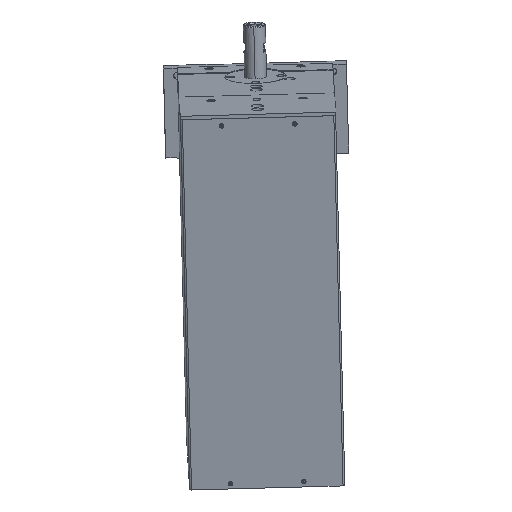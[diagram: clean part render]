
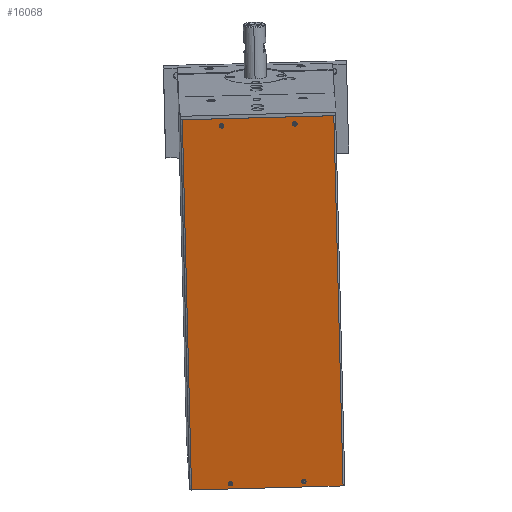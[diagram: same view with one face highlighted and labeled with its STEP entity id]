
A CAD part, top view. The second image highlights one B-rep face of the part: STEP entity #16068.
In plain terms, the highlighted planar face has unit normal (0.015, -0.234, 0.972) as drawn and (-1, 0, 0) by its records, which use the part's own axes.
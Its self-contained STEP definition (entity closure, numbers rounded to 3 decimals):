
#817 = ORIENTED_EDGE ( 'NONE', *, *, #44563, .F. ) ;
#1295 = DIRECTION ( 'NONE',  ( -1., 0., 0. ) ) ;
#2525 = DIRECTION ( 'NONE',  ( -1., 0., 0. ) ) ;
#2689 = DIRECTION ( 'NONE',  ( 0., 0., 1. ) ) ;
#3382 = EDGE_CURVE ( 'NONE', #24401, #45451, #36777, .T. ) ;
#3693 = FACE_BOUND ( 'NONE', #34035, .T. ) ;
#6455 = FACE_OUTER_BOUND ( 'NONE', #13276, .T. ) ;
#8291 = CARTESIAN_POINT ( 'NONE',  ( -118.5, 1., 104. ) ) ;
#9628 = ORIENTED_EDGE ( 'NONE', *, *, #12168, .F. ) ;
#9821 = VERTEX_POINT ( 'NONE', #29755 ) ;
#9965 = EDGE_LOOP ( 'NONE', ( #28876, #35763 ) ) ;
#11250 = CARTESIAN_POINT ( 'NONE',  ( -118.5, 62.4, -102.25 ) ) ;
#11347 = VERTEX_POINT ( 'NONE', #15560 ) ;
#11969 = DIRECTION ( 'NONE',  ( 0., 0., -1. ) ) ;
#12168 = EDGE_CURVE ( 'NONE', #11347, #37677, #26918, .T. ) ;
#12587 = DIRECTION ( 'NONE',  ( 0., 0., -1. ) ) ;
#12684 = CARTESIAN_POINT ( 'NONE',  ( -118.5, 22.4, 98.75 ) ) ;
#13158 = DIRECTION ( 'NONE',  ( 0., 0., 1. ) ) ;
#13276 = EDGE_LOOP ( 'NONE', ( #15199, #36247, #31209, #31475 ) ) ;
#14338 = CARTESIAN_POINT ( 'NONE',  ( -118.5, 83.8, 104. ) ) ;
#14900 = AXIS2_PLACEMENT_3D ( 'NONE', #37543, #1295, #15725 ) ;
#15199 = ORIENTED_EDGE ( 'NONE', *, *, #37236, .T. ) ;
#15237 = VECTOR ( 'NONE', #39163, 1000. ) ;
#15536 = AXIS2_PLACEMENT_3D ( 'NONE', #38702, #24091, #42455 ) ;
#15560 = CARTESIAN_POINT ( 'NONE',  ( -118.5, 22.4, -99.75 ) ) ;
#15710 = CARTESIAN_POINT ( 'NONE',  ( -118.5, 1., 104. ) ) ;
#15725 = DIRECTION ( 'NONE',  ( 0., 0., 1. ) ) ;
#16068 = ADVANCED_FACE ( 'NONE', ( #3693, #42395, #34555, #41863, #6455 ), #33614, .F. ) ;
#16373 = CARTESIAN_POINT ( 'NONE',  ( -118.5, 1., 104. ) ) ;
#16458 = VERTEX_POINT ( 'NONE', #46604 ) ;
#16930 = EDGE_CURVE ( 'NONE', #9821, #45519, #29451, .T. ) ;
#18021 = VERTEX_POINT ( 'NONE', #42311 ) ;
#18606 = VECTOR ( 'NONE', #42155, 1000. ) ;
#18621 = LINE ( 'NONE', #14338, #15237 ) ;
#19428 = VERTEX_POINT ( 'NONE', #25703 ) ;
#19513 = ORIENTED_EDGE ( 'NONE', *, *, #44713, .F. ) ;
#19981 = CARTESIAN_POINT ( 'NONE',  ( -118.5, 22.4, -102.25 ) ) ;
#19998 = AXIS2_PLACEMENT_3D ( 'NONE', #34231, #37848, #41459 ) ;
#20051 = CARTESIAN_POINT ( 'NONE',  ( -118.5, 62.4, -101. ) ) ;
#20160 = VERTEX_POINT ( 'NONE', #45067 ) ;
#20552 = CARTESIAN_POINT ( 'NONE',  ( -118.5, 22.4, 100. ) ) ;
#20836 = CIRCLE ( 'NONE', #14900, 1.25 ) ;
#20996 = DIRECTION ( 'NONE',  ( -1., 0., 0. ) ) ;
#21103 = AXIS2_PLACEMENT_3D ( 'NONE', #15710, #33462, #11969 ) ;
#21516 = CARTESIAN_POINT ( 'NONE',  ( -118.5, 62.4, 98.75 ) ) ;
#22696 = EDGE_CURVE ( 'NONE', #18021, #31479, #46574, .T. ) ;
#23242 = CARTESIAN_POINT ( 'NONE',  ( -118.5, 1., 104. ) ) ;
#23651 = DIRECTION ( 'NONE',  ( 0., 0., 1. ) ) ;
#23728 = EDGE_CURVE ( 'NONE', #37677, #11347, #31316, .T. ) ;
#23950 = CARTESIAN_POINT ( 'NONE',  ( -118.5, 1., -104. ) ) ;
#24091 = DIRECTION ( 'NONE',  ( -1., 0., 0. ) ) ;
#24172 = CIRCLE ( 'NONE', #19998, 1.25 ) ;
#24382 = CIRCLE ( 'NONE', #31405, 1.25 ) ;
#24387 = AXIS2_PLACEMENT_3D ( 'NONE', #37134, #43772, #29928 ) ;
#24401 = VERTEX_POINT ( 'NONE', #21516 ) ;
#25665 = AXIS2_PLACEMENT_3D ( 'NONE', #20051, #45167, #23651 ) ;
#25696 = CARTESIAN_POINT ( 'NONE',  ( -118.5, 62.4, 101.25 ) ) ;
#25703 = CARTESIAN_POINT ( 'NONE',  ( -118.5, 1., -104. ) ) ;
#26028 = LINE ( 'NONE', #23242, #42326 ) ;
#26802 = DIRECTION ( 'NONE',  ( -1., 0., 0. ) ) ;
#26918 = CIRCLE ( 'NONE', #15536, 1.25 ) ;
#27087 = EDGE_CURVE ( 'NONE', #18021, #20160, #18621, .T. ) ;
#28194 = ORIENTED_EDGE ( 'NONE', *, *, #35031, .F. ) ;
#28593 = EDGE_LOOP ( 'NONE', ( #9628, #42680 ) ) ;
#28876 = ORIENTED_EDGE ( 'NONE', *, *, #16930, .F. ) ;
#29451 = CIRCLE ( 'NONE', #25665, 1.25 ) ;
#29755 = CARTESIAN_POINT ( 'NONE',  ( -118.5, 62.4, -99.75 ) ) ;
#29928 = DIRECTION ( 'NONE',  ( 0., 0., 1. ) ) ;
#30253 = CARTESIAN_POINT ( 'NONE',  ( -118.5, 62.4, 100. ) ) ;
#31209 = ORIENTED_EDGE ( 'NONE', *, *, #22696, .F. ) ;
#31316 = CIRCLE ( 'NONE', #24387, 1.25 ) ;
#31405 = AXIS2_PLACEMENT_3D ( 'NONE', #43312, #20996, #45808 ) ;
#31475 = ORIENTED_EDGE ( 'NONE', *, *, #27087, .T. ) ;
#31479 = VERTEX_POINT ( 'NONE', #8291 ) ;
#32640 = AXIS2_PLACEMENT_3D ( 'NONE', #20552, #2525, #2689 ) ;
#33462 = DIRECTION ( 'NONE',  ( 1., 0., 0. ) ) ;
#33614 = PLANE ( 'NONE',  #21103 ) ;
#34035 = EDGE_LOOP ( 'NONE', ( #28194, #19513 ) ) ;
#34150 = EDGE_CURVE ( 'NONE', #45519, #9821, #24382, .T. ) ;
#34231 = CARTESIAN_POINT ( 'NONE',  ( -118.5, 22.4, 100. ) ) ;
#34555 = FACE_BOUND ( 'NONE', #28593, .T. ) ;
#34721 = DIRECTION ( 'NONE',  ( 0., -1., 0. ) ) ;
#35031 = EDGE_CURVE ( 'NONE', #16458, #46557, #36238, .T. ) ;
#35763 = ORIENTED_EDGE ( 'NONE', *, *, #34150, .F. ) ;
#36129 = AXIS2_PLACEMENT_3D ( 'NONE', #30253, #26802, #13158 ) ;
#36238 = CIRCLE ( 'NONE', #32640, 1.25 ) ;
#36247 = ORIENTED_EDGE ( 'NONE', *, *, #43036, .F. ) ;
#36520 = EDGE_LOOP ( 'NONE', ( #817, #42375 ) ) ;
#36777 = CIRCLE ( 'NONE', #36129, 1.25 ) ;
#37018 = VECTOR ( 'NONE', #34721, 1000. ) ;
#37134 = CARTESIAN_POINT ( 'NONE',  ( -118.5, 22.4, -101. ) ) ;
#37236 = EDGE_CURVE ( 'NONE', #20160, #19428, #42747, .T. ) ;
#37543 = CARTESIAN_POINT ( 'NONE',  ( -118.5, 62.4, 100. ) ) ;
#37677 = VERTEX_POINT ( 'NONE', #19981 ) ;
#37848 = DIRECTION ( 'NONE',  ( -1., 0., 0. ) ) ;
#38702 = CARTESIAN_POINT ( 'NONE',  ( -118.5, 22.4, -101. ) ) ;
#39163 = DIRECTION ( 'NONE',  ( 0., 0., -1. ) ) ;
#41459 = DIRECTION ( 'NONE',  ( 0., 0., 1. ) ) ;
#41863 = FACE_BOUND ( 'NONE', #9965, .T. ) ;
#42155 = DIRECTION ( 'NONE',  ( 0., -1., 0. ) ) ;
#42311 = CARTESIAN_POINT ( 'NONE',  ( -118.5, 83.8, 104. ) ) ;
#42326 = VECTOR ( 'NONE', #12587, 1000. ) ;
#42375 = ORIENTED_EDGE ( 'NONE', *, *, #3382, .F. ) ;
#42395 = FACE_BOUND ( 'NONE', #36520, .T. ) ;
#42455 = DIRECTION ( 'NONE',  ( 0., 0., 1. ) ) ;
#42680 = ORIENTED_EDGE ( 'NONE', *, *, #23728, .F. ) ;
#42747 = LINE ( 'NONE', #23950, #18606 ) ;
#43036 = EDGE_CURVE ( 'NONE', #31479, #19428, #26028, .T. ) ;
#43312 = CARTESIAN_POINT ( 'NONE',  ( -118.5, 62.4, -101. ) ) ;
#43772 = DIRECTION ( 'NONE',  ( -1., 0., 0. ) ) ;
#44563 = EDGE_CURVE ( 'NONE', #45451, #24401, #20836, .T. ) ;
#44713 = EDGE_CURVE ( 'NONE', #46557, #16458, #24172, .T. ) ;
#45067 = CARTESIAN_POINT ( 'NONE',  ( -118.5, 83.8, -104. ) ) ;
#45167 = DIRECTION ( 'NONE',  ( -1., 0., 0. ) ) ;
#45451 = VERTEX_POINT ( 'NONE', #25696 ) ;
#45519 = VERTEX_POINT ( 'NONE', #11250 ) ;
#45808 = DIRECTION ( 'NONE',  ( 0., 0., 1. ) ) ;
#46557 = VERTEX_POINT ( 'NONE', #12684 ) ;
#46574 = LINE ( 'NONE', #16373, #37018 ) ;
#46604 = CARTESIAN_POINT ( 'NONE',  ( -118.5, 22.4, 101.25 ) ) ;
